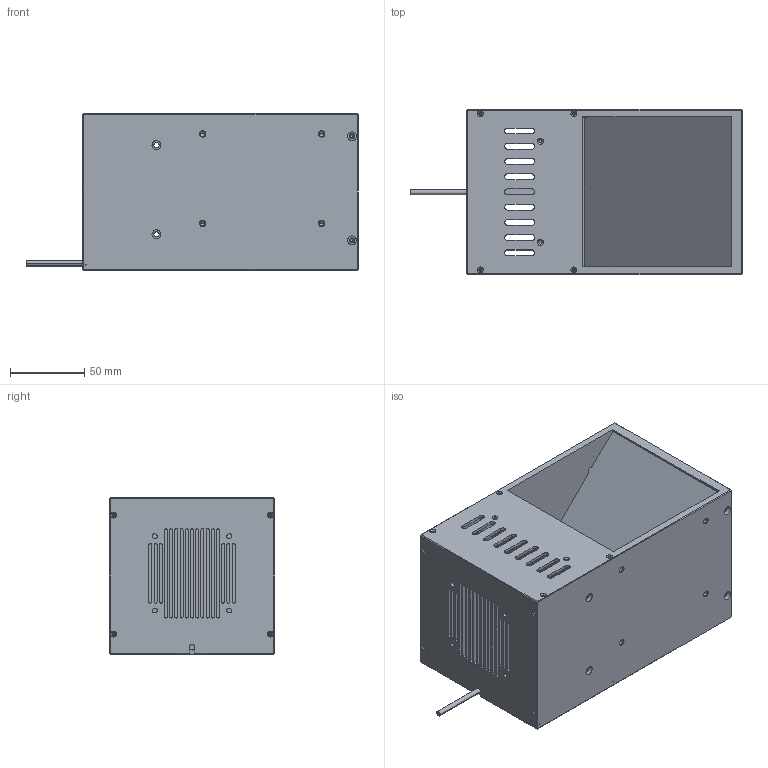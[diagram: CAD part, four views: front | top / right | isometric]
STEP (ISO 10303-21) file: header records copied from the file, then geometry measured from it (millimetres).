
FILE_DESCRIPTION((''),'2;1');
FILE_NAME('MV-LCDM-100-100-W_ASM','2019-09-20T',('win 10'),(''),'PRO/ENGINEER BY PARAMETRIC TECHNOLOGY CORPORATION, 2010100','PRO/ENGINEER BY PARAMETRIC TECHNOLOGY CORPORATION, 2010100','');
FILE_SCHEMA(('CONFIG_CONTROL_DESIGN'));
Length unit declared in the file: millimetre
Products named in the file (2): MV-LCDM-100-100-13; MV-LCDM-100-100-W_ASM
Assembly tree (1 placements, depth 2):
  MV-LCDM-100-100-W_ASM
    MV-LCDM-100-100-13
Bounding box: 223.2 x 111 x 105 mm (x, y, z)
Volume: 375531.1 mm3; surface area: 232625.8 mm2
Topology: 3 solids, 13 shells, 636 faces, 1653 edges, 1029 vertices
Faces by surface type: cylinder 268, plane 258, cone 110
Entity records: 19327 total; most frequent: DIRECTION 3499, CARTESIAN_POINT 3269, ORIENTED_EDGE 3146, EDGE_CURVE 1593, AXIS2_PLACEMENT_3D 1267, VERTEX_POINT 1029, VECTOR 965, LINE 965
